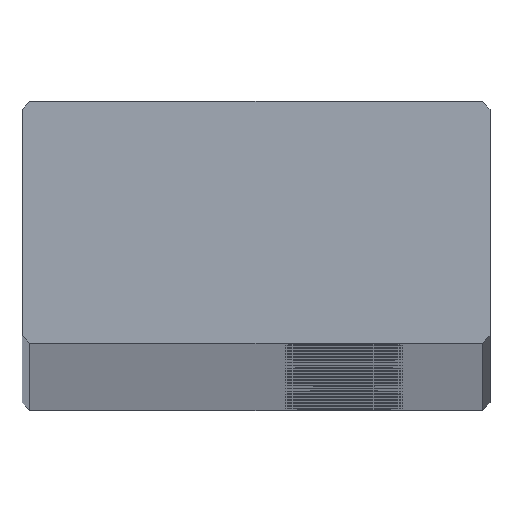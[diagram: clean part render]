
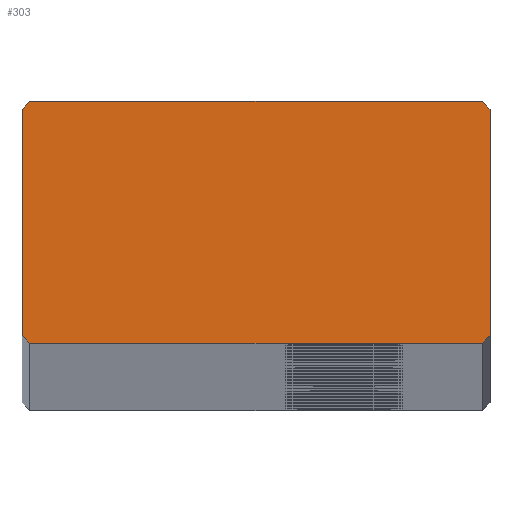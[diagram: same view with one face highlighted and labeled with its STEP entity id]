
A CAD part, top view. The second image highlights one B-rep face of the part: STEP entity #303.
In plain terms, the highlighted planar face has unit normal (0, 0, 1).
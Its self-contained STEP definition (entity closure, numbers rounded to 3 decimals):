
#303=ADVANCED_FACE('',(#894),#895,.T.);
#894=FACE_OUTER_BOUND('',#1486,.T.);
#895=PLANE('',#1487);
#1486=EDGE_LOOP('',(#3262,#3263,#3264,#3265,#3266,#3267,#3268,#3269));
#1487=AXIS2_PLACEMENT_3D('',#3270,#3271,#3272);
#3262=ORIENTED_EDGE('',*,*,#3812,.F.);
#3263=ORIENTED_EDGE('',*,*,#3834,.F.);
#3264=ORIENTED_EDGE('',*,*,#3831,.F.);
#3265=ORIENTED_EDGE('',*,*,#3828,.F.);
#3266=ORIENTED_EDGE('',*,*,#3825,.F.);
#3267=ORIENTED_EDGE('',*,*,#3822,.F.);
#3268=ORIENTED_EDGE('',*,*,#3819,.F.);
#3269=ORIENTED_EDGE('',*,*,#3816,.F.);
#3270=CARTESIAN_POINT('',(0.,6.2,1976.0));
#3271=DIRECTION('',(0.0,0.0,1.0));
#3272=DIRECTION('',(1.0,0.0,0.0));
#3812=EDGE_CURVE('',#4716,#4717,#4718,.T.);
#3816=EDGE_CURVE('',#4717,#4724,#4725,.T.);
#3819=EDGE_CURVE('',#4724,#4729,#4730,.T.);
#3822=EDGE_CURVE('',#4729,#4734,#4735,.T.);
#3825=EDGE_CURVE('',#4734,#4739,#4740,.T.);
#3828=EDGE_CURVE('',#4739,#4744,#4745,.T.);
#3831=EDGE_CURVE('',#4744,#4749,#4750,.T.);
#3834=EDGE_CURVE('',#4749,#4716,#4754,.T.);
#4716=VERTEX_POINT('',#5812);
#4717=VERTEX_POINT('',#5813);
#4718=LINE('',#5814,#5815);
#4724=VERTEX_POINT('',#5824);
#4725=LINE('',#5825,#5826);
#4729=VERTEX_POINT('',#5832);
#4730=LINE('',#5833,#5834);
#4734=VERTEX_POINT('',#5840);
#4735=LINE('',#5841,#5842);
#4739=VERTEX_POINT('',#5848);
#4740=LINE('',#5849,#5850);
#4744=VERTEX_POINT('',#5856);
#4745=LINE('',#5857,#5858);
#4749=VERTEX_POINT('',#5864);
#4750=LINE('',#5865,#5866);
#4754=LINE('',#5872,#5873);
#5812=CARTESIAN_POINT('',(-11.6,0.,1976.0));
#5813=CARTESIAN_POINT('',(-12.0,0.4,1976.0));
#5814=CARTESIAN_POINT('',(-11.6,0.,1976.0));
#5815=VECTOR('',#7108,1.0);
#5824=CARTESIAN_POINT('',(-12.0,12.0,1976.0));
#5825=CARTESIAN_POINT('',(-12.0,0.4,1976.0));
#5826=VECTOR('',#7112,1.0);
#5832=CARTESIAN_POINT('',(-11.6,12.4,1976.0));
#5833=CARTESIAN_POINT('',(-12.0,12.0,1976.0));
#5834=VECTOR('',#7115,1.0);
#5840=CARTESIAN_POINT('',(11.6,12.4,1976.0));
#5841=CARTESIAN_POINT('',(-11.6,12.4,1976.0));
#5842=VECTOR('',#7118,1.0);
#5848=CARTESIAN_POINT('',(12.0,12.0,1976.0));
#5849=CARTESIAN_POINT('',(11.6,12.4,1976.0));
#5850=VECTOR('',#7121,1.0);
#5856=CARTESIAN_POINT('',(12.0,0.4,1976.0));
#5857=CARTESIAN_POINT('',(12.0,0.4,1976.0));
#5858=VECTOR('',#7124,1.0);
#5864=CARTESIAN_POINT('',(11.6,0.,1976.0));
#5865=CARTESIAN_POINT('',(11.6,0.,1976.0));
#5866=VECTOR('',#7127,1.0);
#5872=CARTESIAN_POINT('',(-11.6,0.,1976.0));
#5873=VECTOR('',#7130,1.0);
#7108=DIRECTION('',(-0.707,0.707,0.0));
#7112=DIRECTION('',(0.0,1.0,0.0));
#7115=DIRECTION('',(0.707,0.707,0.0));
#7118=DIRECTION('',(1.0,0.0,0.0));
#7121=DIRECTION('',(0.707,-0.707,0.0));
#7124=DIRECTION('',(-0.0,-1.0,-0.0));
#7127=DIRECTION('',(-0.707,-0.707,-0.0));
#7130=DIRECTION('',(-1.0,-0.0,-0.0));
